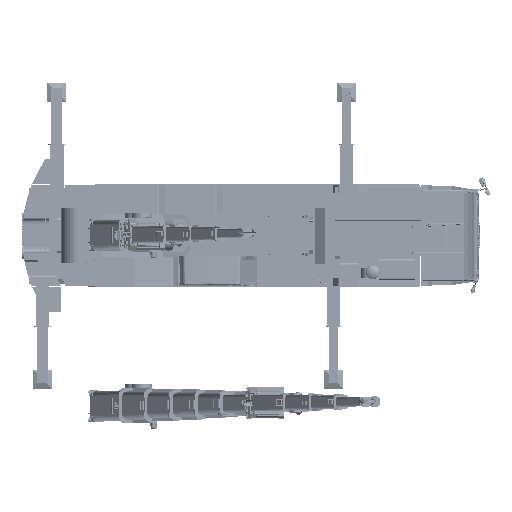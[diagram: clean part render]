
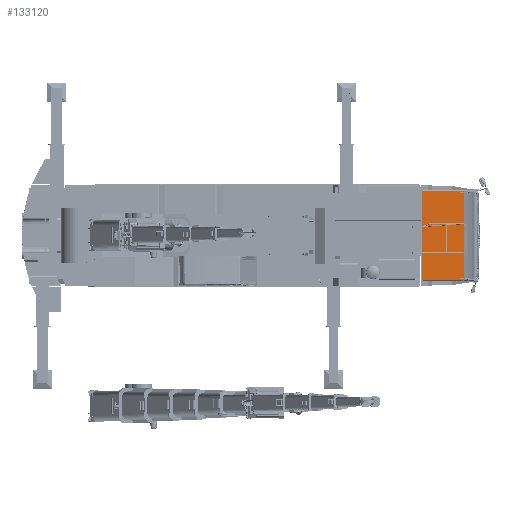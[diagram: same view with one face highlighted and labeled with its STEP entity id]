
A CAD part, top view. The second image highlights one B-rep face of the part: STEP entity #133120.
In plain terms, the highlighted planar face has unit normal (0, 0, 1).
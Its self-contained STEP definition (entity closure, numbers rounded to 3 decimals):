
#133112=AXIS2_PLACEMENT_3D('Plane Axis2P3D',#133109,#133110,#133111) ;
#130766=CARTESIAN_POINT('Vertex',(8825.7,1290.,537.5)) ;
#130840=CARTESIAN_POINT('Vertex',(8825.7,-1290.,537.5)) ;
#131633=CARTESIAN_POINT('Vertex',(7615.7,1290.,537.5)) ;
#131665=CARTESIAN_POINT('Line Origine',(8390.7,1290.,537.5)) ;
#131806=CARTESIAN_POINT('Line Origine',(8825.7,0.,537.5)) ;
#131857=CARTESIAN_POINT('Line Origine',(8390.7,-1290.,537.5)) ;
#131861=CARTESIAN_POINT('Vertex',(7615.7,-1290.,537.5)) ;
#133097=CARTESIAN_POINT('Line Origine',(7615.7,0.,537.5)) ;
#133109=CARTESIAN_POINT('Axis2P3D Location',(7615.7,0.,537.5)) ;
#131666=DIRECTION('Vector Direction',(1.,0.,0.)) ;
#131807=DIRECTION('Vector Direction',(0.,1.,0.)) ;
#131858=DIRECTION('Vector Direction',(1.,0.,0.)) ;
#133098=DIRECTION('Vector Direction',(0.,1.,0.)) ;
#133110=DIRECTION('Axis2P3D Direction',(0.,0.,1.)) ;
#133111=DIRECTION('Axis2P3D XDirection',(1.,0.,0.)) ;
#131667=VECTOR('Line Direction',#131666,1.) ;
#131808=VECTOR('Line Direction',#131807,1.) ;
#131859=VECTOR('Line Direction',#131858,1.) ;
#133099=VECTOR('Line Direction',#133098,1.) ;
#133115=ORIENTED_EDGE('',*,*,#131810,.T.) ;
#133116=ORIENTED_EDGE('',*,*,#131669,.F.) ;
#133117=ORIENTED_EDGE('',*,*,#133101,.F.) ;
#133118=ORIENTED_EDGE('',*,*,#131863,.T.) ;
#133120=ADVANCED_FACE('\X2\FF8AFF9FFF70FF82\X0\ \X2\FF8EFF9EFF83FF9EFF68FF70\X0\',(#133119),#133113,.T.) ;
#131669=EDGE_CURVE('',#131634,#130767,#131668,.T.) ;
#131810=EDGE_CURVE('',#130841,#130767,#131809,.T.) ;
#131863=EDGE_CURVE('',#131862,#130841,#131860,.T.) ;
#133101=EDGE_CURVE('',#131862,#131634,#133100,.T.) ;
#133114=EDGE_LOOP('',(#133115,#133116,#133117,#133118)) ;
#133119=FACE_OUTER_BOUND('',#133114,.T.) ;
#131668=LINE('Line',#131665,#131667) ;
#131809=LINE('Line',#131806,#131808) ;
#131860=LINE('Line',#131857,#131859) ;
#133100=LINE('Line',#133097,#133099) ;
#133113=PLANE('',#133112) ;
#130767=VERTEX_POINT('',#130766) ;
#130841=VERTEX_POINT('',#130840) ;
#131634=VERTEX_POINT('',#131633) ;
#131862=VERTEX_POINT('',#131861) ;
